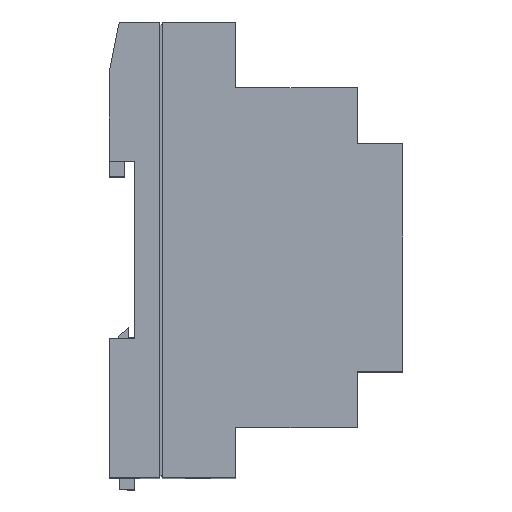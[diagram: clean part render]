
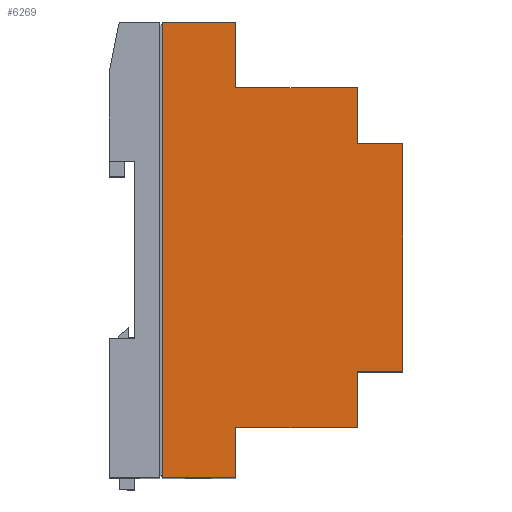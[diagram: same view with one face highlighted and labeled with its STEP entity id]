
A CAD part, top view. The second image highlights one B-rep face of the part: STEP entity #6269.
In plain terms, the highlighted planar face has unit normal (0, 0, 1) as drawn and (-1, 0, 0) by its records, which use the part's own axes.
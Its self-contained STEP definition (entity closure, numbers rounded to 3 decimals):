
#166 = VERTEX_POINT ( 'NONE', #4020 ) ;
#470 = EDGE_CURVE ( 'NONE', #27837, #9081, #964, .T. ) ;
#569 = VECTOR ( 'NONE', #16400, 1000. ) ;
#960 = DIRECTION ( 'NONE',  ( 0., 0., -1. ) ) ;
#964 = LINE ( 'NONE', #25316, #42508 ) ;
#1462 = EDGE_CURVE ( 'NONE', #23415, #5690, #6549, .T. ) ;
#1683 = DIRECTION ( 'NONE',  ( 0., -1., 0. ) ) ;
#2536 = VERTEX_POINT ( 'NONE', #24131 ) ;
#2857 = CARTESIAN_POINT ( 'NONE',  ( 0., 10., 25. ) ) ;
#3063 = ORIENTED_EDGE ( 'NONE', *, *, #32159, .F. ) ;
#3083 = VECTOR ( 'NONE', #34069, 1000. ) ;
#3448 = VERTEX_POINT ( 'NONE', #6901 ) ;
#4020 = CARTESIAN_POINT ( 'NONE',  ( 0., 66., 58. ) ) ;
#4300 = CARTESIAN_POINT ( 'NONE',  ( 0., 77., 25. ) ) ;
#4402 = CARTESIAN_POINT ( 'NONE',  ( 0., 10., 25. ) ) ;
#5047 = VECTOR ( 'NONE', #17374, 1000. ) ;
#5690 = VERTEX_POINT ( 'NONE', #29860 ) ;
#5769 = EDGE_CURVE ( 'NONE', #17716, #23415, #13755, .T. ) ;
#6269 = ADVANCED_FACE ( 'NONE', ( #23866 ), #27787, .T. ) ;
#6549 = LINE ( 'NONE', #22738, #31684 ) ;
#6712 = CARTESIAN_POINT ( 'NONE',  ( 0., 10., 49. ) ) ;
#6901 = CARTESIAN_POINT ( 'NONE',  ( 0., 90., 10.5 ) ) ;
#7214 = VECTOR ( 'NONE', #41384, 1000. ) ;
#7879 = CARTESIAN_POINT ( 'NONE',  ( 0., 66., 58. ) ) ;
#8195 = DIRECTION ( 'NONE',  ( -1., 0., 0. ) ) ;
#9081 = VERTEX_POINT ( 'NONE', #6712 ) ;
#9220 = CARTESIAN_POINT ( 'NONE',  ( 0., 21., 58. ) ) ;
#10360 = VECTOR ( 'NONE', #1683, 1000. ) ;
#10437 = ORIENTED_EDGE ( 'NONE', *, *, #1462, .F. ) ;
#11607 = CARTESIAN_POINT ( 'NONE',  ( 0., 21., 58. ) ) ;
#12007 = CARTESIAN_POINT ( 'NONE',  ( 0., 21., 49. ) ) ;
#12414 = LINE ( 'NONE', #12423, #29817 ) ;
#12423 = CARTESIAN_POINT ( 'NONE',  ( 0., 0., 25. ) ) ;
#12517 = DIRECTION ( 'NONE',  ( 0., -1., 0. ) ) ;
#12541 = EDGE_CURVE ( 'NONE', #3448, #17716, #17423, .T. ) ;
#13482 = EDGE_CURVE ( 'NONE', #23116, #2536, #12414, .T. ) ;
#13755 = LINE ( 'NONE', #37018, #5047 ) ;
#14295 = DIRECTION ( 'NONE',  ( 0., 0., -1. ) ) ;
#14628 = LINE ( 'NONE', #4402, #31042 ) ;
#15521 = EDGE_CURVE ( 'NONE', #2536, #34224, #33645, .T. ) ;
#15593 = DIRECTION ( 'NONE',  ( 0., -1., 0. ) ) ;
#15910 = LINE ( 'NONE', #38103, #7214 ) ;
#15940 = VECTOR ( 'NONE', #12517, 1000. ) ;
#16400 = DIRECTION ( 'NONE',  ( 0., -1., 0. ) ) ;
#16460 = DIRECTION ( 'NONE',  ( 0., 0., 1. ) ) ;
#17293 = CARTESIAN_POINT ( 'NONE',  ( 0., 0., 0. ) ) ;
#17374 = DIRECTION ( 'NONE',  ( 0., -1., 0. ) ) ;
#17423 = LINE ( 'NONE', #22233, #33825 ) ;
#17716 = VERTEX_POINT ( 'NONE', #23311 ) ;
#17916 = EDGE_CURVE ( 'NONE', #3448, #34224, #19064, .T. ) ;
#19064 = LINE ( 'NONE', #40949, #10360 ) ;
#20527 = LINE ( 'NONE', #7879, #3083 ) ;
#21207 = CARTESIAN_POINT ( 'NONE',  ( 0., 0., 0. ) ) ;
#22233 = CARTESIAN_POINT ( 'NONE',  ( 0., 90., 25. ) ) ;
#22738 = CARTESIAN_POINT ( 'NONE',  ( 0., 77., 49. ) ) ;
#23116 = VERTEX_POINT ( 'NONE', #2857 ) ;
#23311 = CARTESIAN_POINT ( 'NONE',  ( 0., 90., 25. ) ) ;
#23342 = ORIENTED_EDGE ( 'NONE', *, *, #12541, .F. ) ;
#23345 = CARTESIAN_POINT ( 'NONE',  ( 0., 0., 10.5 ) ) ;
#23415 = VERTEX_POINT ( 'NONE', #4300 ) ;
#23456 = VERTEX_POINT ( 'NONE', #11607 ) ;
#23866 = FACE_OUTER_BOUND ( 'NONE', #31023, .T. ) ;
#23988 = ORIENTED_EDGE ( 'NONE', *, *, #15521, .F. ) ;
#24131 = CARTESIAN_POINT ( 'NONE',  ( 0., 0., 25. ) ) ;
#24341 = EDGE_CURVE ( 'NONE', #5690, #33971, #28774, .T. ) ;
#24923 = VECTOR ( 'NONE', #960, 1000. ) ;
#25316 = CARTESIAN_POINT ( 'NONE',  ( 0., 10., 49. ) ) ;
#25385 = ORIENTED_EDGE ( 'NONE', *, *, #13482, .F. ) ;
#26574 = ORIENTED_EDGE ( 'NONE', *, *, #24341, .F. ) ;
#26590 = ORIENTED_EDGE ( 'NONE', *, *, #42091, .F. ) ;
#27787 = PLANE ( 'NONE',  #32930 ) ;
#27837 = VERTEX_POINT ( 'NONE', #12007 ) ;
#28388 = ORIENTED_EDGE ( 'NONE', *, *, #17916, .T. ) ;
#28774 = LINE ( 'NONE', #29410, #569 ) ;
#28816 = DIRECTION ( 'NONE',  ( 0., 0., 1. ) ) ;
#29389 = EDGE_CURVE ( 'NONE', #23456, #27837, #15910, .T. ) ;
#29410 = CARTESIAN_POINT ( 'NONE',  ( 0., 66., 49. ) ) ;
#29817 = VECTOR ( 'NONE', #35341, 1000. ) ;
#29860 = CARTESIAN_POINT ( 'NONE',  ( 0., 77., 49. ) ) ;
#31023 = EDGE_LOOP ( 'NONE', ( #28388, #23988, #25385, #37885, #38698, #38818, #26590, #3063, #26574, #10437, #35472, #23342 ) ) ;
#31042 = VECTOR ( 'NONE', #14295, 1000. ) ;
#31124 = DIRECTION ( 'NONE',  ( 0., 0., 1. ) ) ;
#31684 = VECTOR ( 'NONE', #16460, 1000. ) ;
#32159 = EDGE_CURVE ( 'NONE', #33971, #166, #20527, .T. ) ;
#32930 = AXIS2_PLACEMENT_3D ( 'NONE', #21207, #8195, #31124 ) ;
#33368 = LINE ( 'NONE', #9220, #15940 ) ;
#33645 = LINE ( 'NONE', #17293, #24923 ) ;
#33825 = VECTOR ( 'NONE', #28816, 1000. ) ;
#33971 = VERTEX_POINT ( 'NONE', #35162 ) ;
#34069 = DIRECTION ( 'NONE',  ( 0., 0., 1. ) ) ;
#34224 = VERTEX_POINT ( 'NONE', #23345 ) ;
#35162 = CARTESIAN_POINT ( 'NONE',  ( 0., 66., 49. ) ) ;
#35341 = DIRECTION ( 'NONE',  ( 0., -1., 0. ) ) ;
#35472 = ORIENTED_EDGE ( 'NONE', *, *, #5769, .F. ) ;
#35633 = EDGE_CURVE ( 'NONE', #9081, #23116, #14628, .T. ) ;
#37018 = CARTESIAN_POINT ( 'NONE',  ( 0., 77., 25. ) ) ;
#37885 = ORIENTED_EDGE ( 'NONE', *, *, #35633, .F. ) ;
#38103 = CARTESIAN_POINT ( 'NONE',  ( 0., 21., 49. ) ) ;
#38698 = ORIENTED_EDGE ( 'NONE', *, *, #470, .F. ) ;
#38818 = ORIENTED_EDGE ( 'NONE', *, *, #29389, .F. ) ;
#40949 = CARTESIAN_POINT ( 'NONE',  ( 0., 91.414, 10.5 ) ) ;
#41384 = DIRECTION ( 'NONE',  ( 0., 0., -1. ) ) ;
#42091 = EDGE_CURVE ( 'NONE', #166, #23456, #33368, .T. ) ;
#42508 = VECTOR ( 'NONE', #15593, 1000. ) ;
